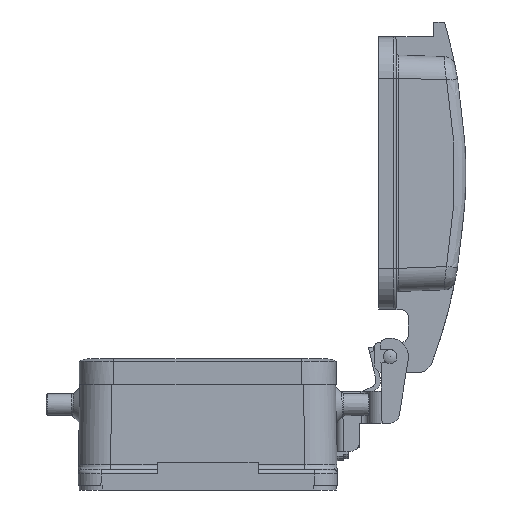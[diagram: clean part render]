
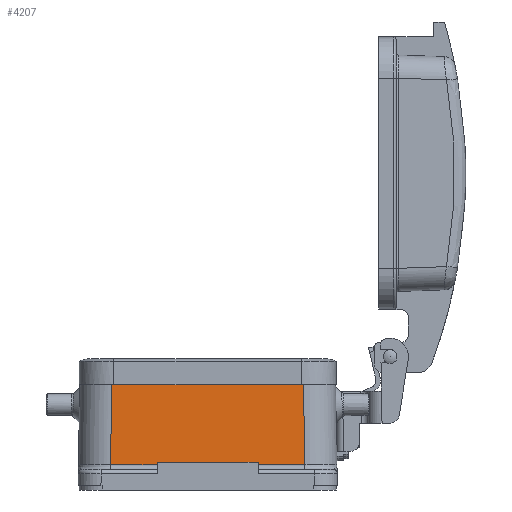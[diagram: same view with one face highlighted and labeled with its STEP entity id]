
A CAD part, left-side view. The second image highlights one B-rep face of the part: STEP entity #4207.
In plain terms, the highlighted planar face has unit normal (-1, 0, 0.018).
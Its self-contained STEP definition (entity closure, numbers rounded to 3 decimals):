
#3034=FACE_OUTER_BOUND('',#5405,.T.);
#4207=ADVANCED_FACE('',(#3034),#4866,.T.);
#4866=PLANE('',#14505);
#5405=EDGE_LOOP('',(#6348,#6349,#6350,#6351,#6352,#6353,#6354,#6355,#6356,
#6357));
#6348=ORIENTED_EDGE('',*,*,#10632,.F.);
#6349=ORIENTED_EDGE('',*,*,#10633,.T.);
#6350=ORIENTED_EDGE('',*,*,#10634,.T.);
#6351=ORIENTED_EDGE('',*,*,#10635,.T.);
#6352=ORIENTED_EDGE('',*,*,#10636,.T.);
#6353=ORIENTED_EDGE('',*,*,#10637,.T.);
#6354=ORIENTED_EDGE('',*,*,#10638,.T.);
#6355=ORIENTED_EDGE('',*,*,#10639,.T.);
#6356=ORIENTED_EDGE('',*,*,#10640,.F.);
#6357=ORIENTED_EDGE('',*,*,#10641,.T.);
#9580=VERTEX_POINT('',#19010);
#9581=VERTEX_POINT('',#19011);
#9582=VERTEX_POINT('',#19013);
#9583=VERTEX_POINT('',#19015);
#9584=VERTEX_POINT('',#19017);
#9585=VERTEX_POINT('',#19019);
#9586=VERTEX_POINT('',#19021);
#9587=VERTEX_POINT('',#19023);
#9588=VERTEX_POINT('',#19025);
#9589=VERTEX_POINT('',#19027);
#10632=EDGE_CURVE('',#9580,#9581,#12210,.T.);
#10633=EDGE_CURVE('',#9580,#9582,#12211,.T.);
#10634=EDGE_CURVE('',#9582,#9583,#12212,.T.);
#10635=EDGE_CURVE('',#9583,#9584,#12213,.T.);
#10636=EDGE_CURVE('',#9584,#9585,#12214,.T.);
#10637=EDGE_CURVE('',#9585,#9586,#12215,.T.);
#10638=EDGE_CURVE('',#9586,#9587,#12216,.T.);
#10639=EDGE_CURVE('',#9587,#9588,#12217,.T.);
#10640=EDGE_CURVE('',#9589,#9588,#12218,.T.);
#10641=EDGE_CURVE('',#9589,#9581,#12219,.T.);
#12210=LINE('',#19009,#13127);
#12211=LINE('',#19012,#13128);
#12212=LINE('',#19014,#13129);
#12213=LINE('',#19016,#13130);
#12214=LINE('',#19018,#13131);
#12215=LINE('',#19020,#13132);
#12216=LINE('',#19022,#13133);
#12217=LINE('',#19024,#13134);
#12218=LINE('',#19026,#13135);
#12219=LINE('',#19028,#13136);
#13127=VECTOR('',#15706,1.);
#13128=VECTOR('',#15707,1.);
#13129=VECTOR('',#15708,1.);
#13130=VECTOR('',#15709,1.);
#13131=VECTOR('',#15710,1.);
#13132=VECTOR('',#15711,1.);
#13133=VECTOR('',#15712,1.);
#13134=VECTOR('',#15713,1.);
#13135=VECTOR('',#15714,1.);
#13136=VECTOR('',#15715,1.);
#14505=AXIS2_PLACEMENT_3D('',#19029,#15716,#15717);
#15706=DIRECTION('',(0.017,0.,1.));
#15707=DIRECTION('',(0.,-1.,0.));
#15708=DIRECTION('',(0.017,0.017,1.));
#15709=DIRECTION('',(0.,1.,0.));
#15710=DIRECTION('',(0.,1.,0.));
#15711=DIRECTION('',(0.,1.,0.));
#15712=DIRECTION('',(-0.017,0.017,-1.));
#15713=DIRECTION('',(0.,-1.,0.));
#15714=DIRECTION('',(-0.017,0.,-1.));
#15715=DIRECTION('',(0.,-1.,0.));
#15716=DIRECTION('',(-1.,0.,0.017));
#15717=DIRECTION('',(0.017,0.,1.));
#19009=CARTESIAN_POINT('',(-41.3,-11.,-11.15));
#19010=CARTESIAN_POINT('',(-41.283,-11.,-10.167));
#19011=CARTESIAN_POINT('',(-41.274,-11.,-9.65));
#19012=CARTESIAN_POINT('',(-41.283,-21.22,-10.167));
#19013=CARTESIAN_POINT('',(-41.283,-21.203,-10.167));
#19014=CARTESIAN_POINT('',(-40.984,-20.904,6.978));
#19015=CARTESIAN_POINT('',(-40.977,-20.897,7.35));
#19016=CARTESIAN_POINT('',(-40.977,0.,7.35));
#19017=CARTESIAN_POINT('',(-40.977,-20.5,7.35));
#19018=CARTESIAN_POINT('',(-40.977,0.,7.35));
#19019=CARTESIAN_POINT('',(-40.977,20.5,7.35));
#19020=CARTESIAN_POINT('',(-40.977,0.,7.35));
#19021=CARTESIAN_POINT('',(-40.977,20.897,7.35));
#19022=CARTESIAN_POINT('',(-41.302,21.222,-11.272));
#19023=CARTESIAN_POINT('',(-41.283,21.203,-10.167));
#19024=CARTESIAN_POINT('',(-41.283,11.,-10.167));
#19025=CARTESIAN_POINT('',(-41.283,11.,-10.167));
#19026=CARTESIAN_POINT('',(-41.3,11.,-11.15));
#19027=CARTESIAN_POINT('',(-41.274,11.,-9.65));
#19028=CARTESIAN_POINT('',(-41.274,28.28,-9.65));
#19029=CARTESIAN_POINT('',(-41.3,28.28,-11.15));
